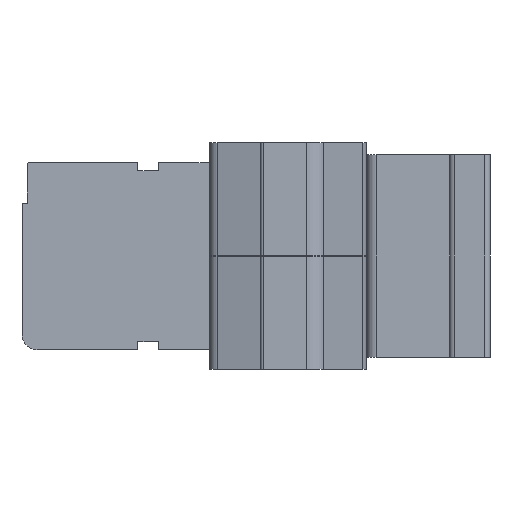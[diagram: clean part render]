
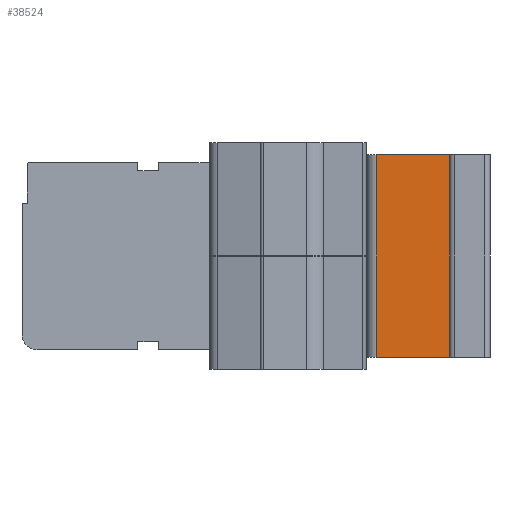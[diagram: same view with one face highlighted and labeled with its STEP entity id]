
A CAD part, left-side view. The second image highlights one B-rep face of the part: STEP entity #38524.
In plain terms, the highlighted planar face has unit normal (-1, 0, 0).
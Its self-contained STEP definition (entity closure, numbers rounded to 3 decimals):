
#833 = EDGE_CURVE ( 'NONE', #16996, #46818, #30149, .T. ) ;
#1348 = DIRECTION ( 'NONE',  ( 0., 0., 1. ) ) ;
#1738 = CARTESIAN_POINT ( 'NONE',  ( -32.191, -9.913, 19.525 ) ) ;
#4686 = CARTESIAN_POINT ( 'NONE',  ( -32.191, -1.988, -0.475 ) ) ;
#6281 = DIRECTION ( 'NONE',  ( 0., 0., -1. ) ) ;
#7830 = ORIENTED_EDGE ( 'NONE', *, *, #833, .T. ) ;
#10539 = VERTEX_POINT ( 'NONE', #49775 ) ;
#10576 = CARTESIAN_POINT ( 'NONE',  ( -32.191, -10.596, 11.525 ) ) ;
#16392 = EDGE_CURVE ( 'NONE', #29352, #46818, #28147, .T. ) ;
#16438 = ORIENTED_EDGE ( 'NONE', *, *, #47226, .F. ) ;
#16996 = VERTEX_POINT ( 'NONE', #19341 ) ;
#17115 = VECTOR ( 'NONE', #6281, 1000. ) ;
#18803 = CARTESIAN_POINT ( 'NONE',  ( -32.191, -10.596, -0.475 ) ) ;
#19341 = CARTESIAN_POINT ( 'NONE',  ( -32.191, -0.896, -0.475 ) ) ;
#23868 = VECTOR ( 'NONE', #38908, 1000. ) ;
#24554 = CARTESIAN_POINT ( 'NONE',  ( -32.191, -9.046, 11.525 ) ) ;
#25252 = CARTESIAN_POINT ( 'NONE',  ( -32.191, -10.596, 19.525 ) ) ;
#26004 = CARTESIAN_POINT ( 'NONE',  ( -32.191, -0.896, -0.475 ) ) ;
#28147 = LINE ( 'NONE', #10576, #17115 ) ;
#28783 = DIRECTION ( 'NONE',  ( 0., 0., -1. ) ) ;
#29250 = DIRECTION ( 'NONE',  ( 0., -1., 0. ) ) ;
#29352 = VERTEX_POINT ( 'NONE', #25252 ) ;
#30149 = LINE ( 'NONE', #4686, #50836 ) ;
#30313 = LINE ( 'NONE', #1738, #23868 ) ;
#38524 = ADVANCED_FACE ( 'NONE', ( #46813 ), #53308, .F. ) ;
#38908 = DIRECTION ( 'NONE',  ( 0., -1., 0. ) ) ;
#39373 = EDGE_LOOP ( 'NONE', ( #45459, #16438, #7830, #47836 ) ) ;
#44735 = VECTOR ( 'NONE', #1348, 1000. ) ;
#44954 = LINE ( 'NONE', #26004, #44735 ) ;
#45159 = EDGE_CURVE ( 'NONE', #10539, #29352, #30313, .T. ) ;
#45459 = ORIENTED_EDGE ( 'NONE', *, *, #45159, .F. ) ;
#46813 = FACE_OUTER_BOUND ( 'NONE', #39373, .T. ) ;
#46818 = VERTEX_POINT ( 'NONE', #18803 ) ;
#46945 = AXIS2_PLACEMENT_3D ( 'NONE', #24554, #53492, #28783 ) ;
#47226 = EDGE_CURVE ( 'NONE', #16996, #10539, #44954, .T. ) ;
#47836 = ORIENTED_EDGE ( 'NONE', *, *, #16392, .F. ) ;
#49775 = CARTESIAN_POINT ( 'NONE',  ( -32.191, -0.896, 19.525 ) ) ;
#50836 = VECTOR ( 'NONE', #29250, 1000. ) ;
#53308 = PLANE ( 'NONE',  #46945 ) ;
#53492 = DIRECTION ( 'NONE',  ( 1., 0., 0. ) ) ;
